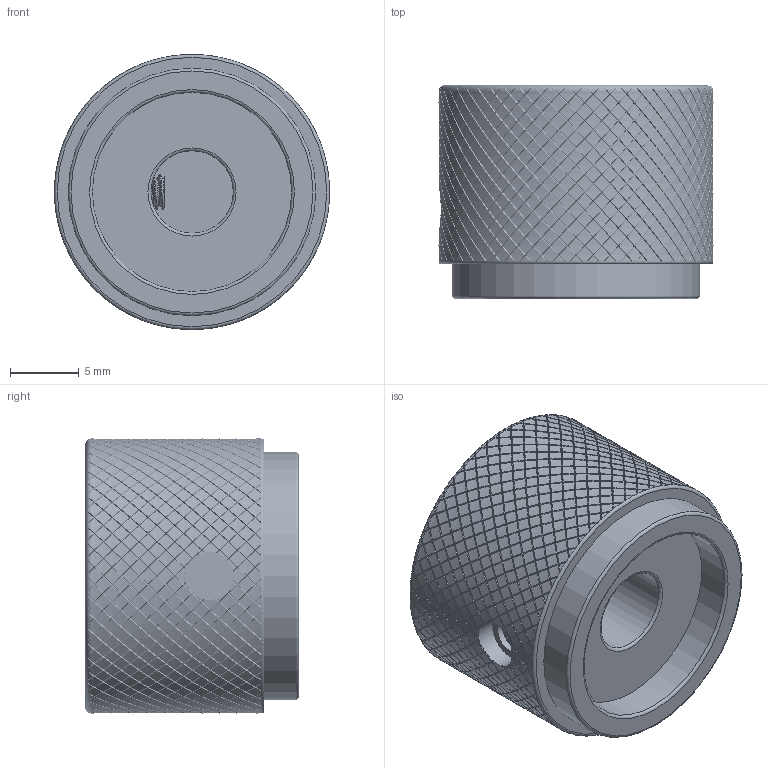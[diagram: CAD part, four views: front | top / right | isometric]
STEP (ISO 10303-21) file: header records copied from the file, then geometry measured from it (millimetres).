
FILE_DESCRIPTION(/* description */ (''),/* implementation_level */ '2;1');
FILE_NAME(/* name */ 'E:/Documents/KiCad/heartpad/Knob/EncoderKnob.step',/* time_stamp */ '2021-08-30T14:00:50-04:00',/* author */ (''),/* organization */ (''),/* preprocessor_version */ 'ST-DEVELOPER v18.1',/* originating_system */ 'Autodesk Translation Framework v10.10.0.1391',/* authorisation */ '');
FILE_SCHEMA (('AUTOMOTIVE_DESIGN { 1 0 10303 214 3 1 1 }'));
Products named in the file (1): EC11 Encoder Knob
Bounding box: 20 x 15.5 x 20 mm (x, y, z)
Volume: 3693.5 mm3; surface area: 2038 mm2
Topology: 1 solids, 1 shells, 5281 faces, 10921 edges, 5648 vertices
Faces by surface type: bspline 3985, cylinder 1060, plane 231, torus 5
Full cylindrical faces by diameter (mm): 2.016 x1, 2.5 x1, 2.53 x1, 3.5 x1, 6 x1, 14.5 x1, 18 x1
Entity records: 199295 total; most frequent: CARTESIAN_POINT 123438, ORIENTED_EDGE 21842, EDGE_CURVE 10921, B_SPLINE_CURVE_WITH_KNOTS 10429, VERTEX_POINT 5648, EDGE_LOOP 5287, FACE_OUTER_BOUND 5281, ADVANCED_FACE 5281
